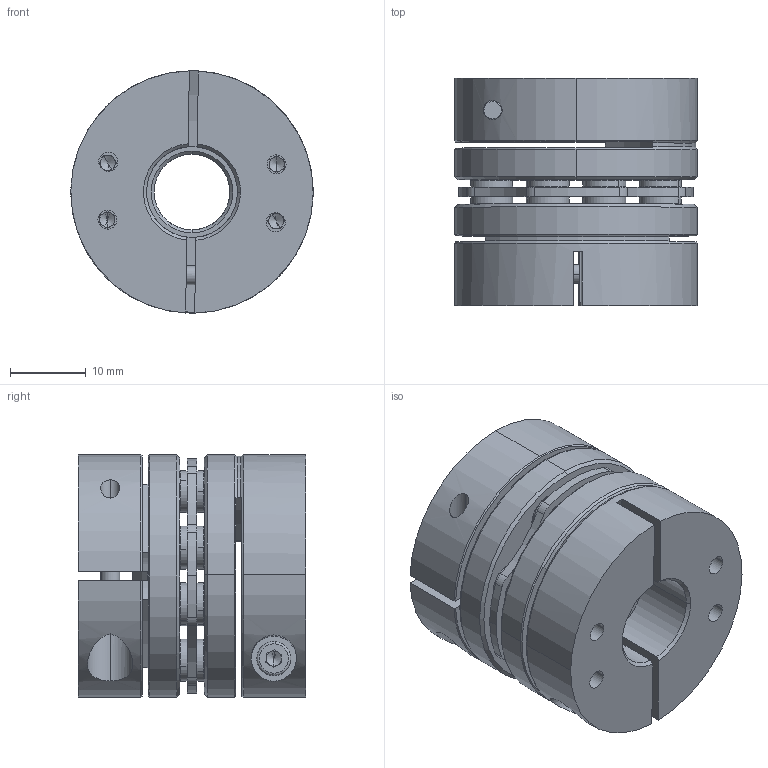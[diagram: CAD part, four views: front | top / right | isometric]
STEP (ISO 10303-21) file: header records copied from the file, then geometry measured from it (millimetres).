
FILE_DESCRIPTION (( 'STEP AP203' ), '1' );
FILE_NAME ('LDG-32-B1-10-12.STEP', '2021-10-28T05:15:40', ( '' ), ( '' ), 'SwSTEP 2.0', 'SolidWorks 2018', '' );
FILE_SCHEMA (( 'CONFIG_CONTROL_DESIGN' ));
Length unit declared in the file: millimetre
Products named in the file (2): LDG-32-B1-10-12; 錨璃5^LDG-32蚾饜芞1
Assembly tree (1 placements, depth 2):
  LDG-32-B1-10-12
    錨璃5^LDG-32蚾饜芞1
Bounding box: 32 x 30 x 32 mm (x, y, z)
Volume: 17406.9 mm3; surface area: 13128.7 mm2
Topology: 1 solids, 11 shells, 795 faces, 1967 edges, 1216 vertices
Faces by surface type: cylinder 301, plane 244, cone 230, torus 20
Entity records: 24191 total; most frequent: CARTESIAN_POINT 4472, DIRECTION 4465, ORIENTED_EDGE 3878, EDGE_CURVE 1939, AXIS2_PLACEMENT_3D 1819, VERTEX_POINT 1216, CIRCLE 1020, EDGE_LOOP 939
